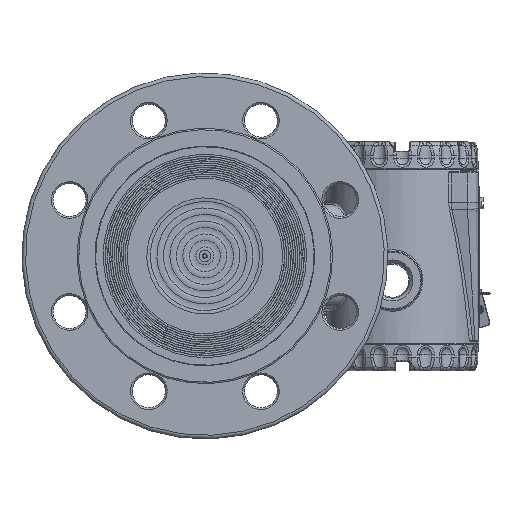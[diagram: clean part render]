
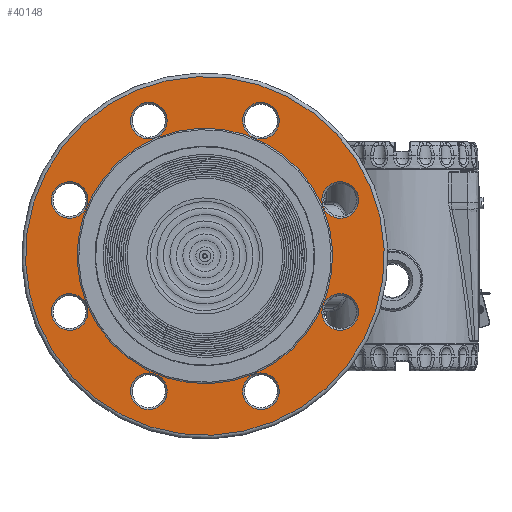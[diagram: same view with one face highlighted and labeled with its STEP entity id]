
A CAD part, top view. The second image highlights one B-rep face of the part: STEP entity #40148.
In plain terms, the highlighted planar face has unit normal (0, 0, 1) as drawn and (-1, 0, 0) by its records, which use the part's own axes.
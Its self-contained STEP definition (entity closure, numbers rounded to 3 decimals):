
#670=FACE_BOUND('',#6636,.T.);
#671=FACE_BOUND('',#6637,.T.);
#672=FACE_BOUND('',#6638,.T.);
#673=FACE_BOUND('',#6639,.T.);
#674=FACE_BOUND('',#6640,.T.);
#675=FACE_BOUND('',#6641,.T.);
#676=FACE_BOUND('',#6642,.T.);
#677=FACE_BOUND('',#6643,.T.);
#678=FACE_BOUND('',#6644,.T.);
#2587=PLANE('',#44598);
#3956=FACE_OUTER_BOUND('',#6635,.T.);
#6635=EDGE_LOOP('',(#30656,#30657));
#6636=EDGE_LOOP('',(#30658));
#6637=EDGE_LOOP('',(#30659));
#6638=EDGE_LOOP('',(#30660));
#6639=EDGE_LOOP('',(#30661));
#6640=EDGE_LOOP('',(#30662,#30663));
#6641=EDGE_LOOP('',(#30664));
#6642=EDGE_LOOP('',(#30665));
#6643=EDGE_LOOP('',(#30666));
#6644=EDGE_LOOP('',(#30667));
#13257=CIRCLE('',#44597,10.);
#13258=CIRCLE('',#44599,98.);
#13259=CIRCLE('',#44600,98.);
#13260=CIRCLE('',#44601,10.);
#13261=CIRCLE('',#44602,10.);
#13262=CIRCLE('',#44603,10.);
#13263=CIRCLE('',#44604,10.);
#13264=CIRCLE('',#44605,69.8);
#13265=CIRCLE('',#44606,69.8);
#13266=CIRCLE('',#44607,10.);
#13267=CIRCLE('',#44608,10.);
#13268=CIRCLE('',#44609,10.);
#17599=VERTEX_POINT('',#70985);
#17600=VERTEX_POINT('',#70989);
#17601=VERTEX_POINT('',#70990);
#17602=VERTEX_POINT('',#70993);
#17603=VERTEX_POINT('',#70995);
#17604=VERTEX_POINT('',#70997);
#17605=VERTEX_POINT('',#70999);
#17606=VERTEX_POINT('',#71001);
#17607=VERTEX_POINT('',#71002);
#17608=VERTEX_POINT('',#71005);
#17609=VERTEX_POINT('',#71007);
#17610=VERTEX_POINT('',#71009);
#22231=EDGE_CURVE('',#17599,#17599,#13257,.T.);
#22233=EDGE_CURVE('',#17600,#17601,#13258,.T.);
#22234=EDGE_CURVE('',#17601,#17600,#13259,.T.);
#22235=EDGE_CURVE('',#17602,#17602,#13260,.T.);
#22236=EDGE_CURVE('',#17603,#17603,#13261,.T.);
#22237=EDGE_CURVE('',#17604,#17604,#13262,.T.);
#22238=EDGE_CURVE('',#17605,#17605,#13263,.T.);
#22239=EDGE_CURVE('',#17606,#17607,#13264,.T.);
#22240=EDGE_CURVE('',#17607,#17606,#13265,.T.);
#22241=EDGE_CURVE('',#17608,#17608,#13266,.T.);
#22242=EDGE_CURVE('',#17609,#17609,#13267,.T.);
#22243=EDGE_CURVE('',#17610,#17610,#13268,.T.);
#30656=ORIENTED_EDGE('',*,*,#22233,.F.);
#30657=ORIENTED_EDGE('',*,*,#22234,.F.);
#30658=ORIENTED_EDGE('',*,*,#22235,.F.);
#30659=ORIENTED_EDGE('',*,*,#22236,.F.);
#30660=ORIENTED_EDGE('',*,*,#22237,.F.);
#30661=ORIENTED_EDGE('',*,*,#22238,.F.);
#30662=ORIENTED_EDGE('',*,*,#22239,.T.);
#30663=ORIENTED_EDGE('',*,*,#22240,.T.);
#30664=ORIENTED_EDGE('',*,*,#22241,.F.);
#30665=ORIENTED_EDGE('',*,*,#22242,.F.);
#30666=ORIENTED_EDGE('',*,*,#22243,.F.);
#30667=ORIENTED_EDGE('',*,*,#22231,.F.);
#40148=ADVANCED_FACE('',(#3956,#670,#671,#672,#673,#674,#675,#676,#677,
#678),#2587,.T.);
#44597=AXIS2_PLACEMENT_3D('',#70986,#52512,#52513);
#44598=AXIS2_PLACEMENT_3D('',#70988,#52515,#52516);
#44599=AXIS2_PLACEMENT_3D('',#70991,#52517,#52518);
#44600=AXIS2_PLACEMENT_3D('',#70992,#52519,#52520);
#44601=AXIS2_PLACEMENT_3D('',#70994,#52521,#52522);
#44602=AXIS2_PLACEMENT_3D('',#70996,#52523,#52524);
#44603=AXIS2_PLACEMENT_3D('',#70998,#52525,#52526);
#44604=AXIS2_PLACEMENT_3D('',#71000,#52527,#52528);
#44605=AXIS2_PLACEMENT_3D('',#71003,#52529,#52530);
#44606=AXIS2_PLACEMENT_3D('',#71004,#52531,#52532);
#44607=AXIS2_PLACEMENT_3D('',#71006,#52533,#52534);
#44608=AXIS2_PLACEMENT_3D('',#71008,#52535,#52536);
#44609=AXIS2_PLACEMENT_3D('',#71010,#52537,#52538);
#52512=DIRECTION('center_axis',(-1.,0.,0.));
#52513=DIRECTION('ref_axis',(0.,-0.707,-0.707));
#52515=DIRECTION('center_axis',(-1.,0.,0.));
#52516=DIRECTION('ref_axis',(0.,0.,1.));
#52517=DIRECTION('center_axis',(1.,0.,0.));
#52518=DIRECTION('ref_axis',(0.,1.,0.));
#52519=DIRECTION('center_axis',(1.,0.,0.));
#52520=DIRECTION('ref_axis',(0.,1.,0.));
#52521=DIRECTION('center_axis',(-1.,0.,0.));
#52522=DIRECTION('ref_axis',(0.,-1.,0.));
#52523=DIRECTION('center_axis',(-1.,0.,0.));
#52524=DIRECTION('ref_axis',(0.,0.,1.));
#52525=DIRECTION('center_axis',(-1.,0.,0.));
#52526=DIRECTION('ref_axis',(0.,1.,0.));
#52527=DIRECTION('center_axis',(-1.,0.,0.));
#52528=DIRECTION('ref_axis',(0.,0.,-1.));
#52529=DIRECTION('center_axis',(1.,0.,0.));
#52530=DIRECTION('ref_axis',(0.,1.,0.));
#52531=DIRECTION('center_axis',(1.,0.,0.));
#52532=DIRECTION('ref_axis',(0.,1.,0.));
#52533=DIRECTION('center_axis',(-1.,0.,0.));
#52534=DIRECTION('ref_axis',(0.,0.707,-0.707));
#52535=DIRECTION('center_axis',(-1.,0.,0.));
#52536=DIRECTION('ref_axis',(0.,0.707,0.707));
#52537=DIRECTION('center_axis',(-1.,0.,0.));
#52538=DIRECTION('ref_axis',(0.,-0.707,0.707));
#70985=CARTESIAN_POINT('',(2.,63.64,63.64));
#70986=CARTESIAN_POINT('Origin',(2.,56.569,56.569));
#70988=CARTESIAN_POINT('Origin',(2.,83.9,0.));
#70989=CARTESIAN_POINT('',(2.,98.,0.));
#70990=CARTESIAN_POINT('',(2.,0.,98.));
#70991=CARTESIAN_POINT('Origin',(2.,0.,0.));
#70992=CARTESIAN_POINT('Origin',(2.,0.,0.));
#70993=CARTESIAN_POINT('',(2.,90.,0.));
#70994=CARTESIAN_POINT('Origin',(2.,80.,0.));
#70995=CARTESIAN_POINT('',(2.,0.,-90.));
#70996=CARTESIAN_POINT('Origin',(2.,0.,-80.));
#70997=CARTESIAN_POINT('',(2.,-90.,0.));
#70998=CARTESIAN_POINT('Origin',(2.,-80.,0.));
#70999=CARTESIAN_POINT('',(2.,0.,90.));
#71000=CARTESIAN_POINT('Origin',(2.,0.,80.));
#71001=CARTESIAN_POINT('',(2.,69.8,0.));
#71002=CARTESIAN_POINT('',(2.,0.,69.8));
#71003=CARTESIAN_POINT('Origin',(2.,0.,0.));
#71004=CARTESIAN_POINT('Origin',(2.,0.,0.));
#71005=CARTESIAN_POINT('',(2.,-63.64,63.64));
#71006=CARTESIAN_POINT('Origin',(2.,-56.569,56.569));
#71007=CARTESIAN_POINT('',(2.,-63.64,-63.64));
#71008=CARTESIAN_POINT('Origin',(2.,-56.569,-56.569));
#71009=CARTESIAN_POINT('',(2.,63.64,-63.64));
#71010=CARTESIAN_POINT('Origin',(2.,56.569,-56.569));
